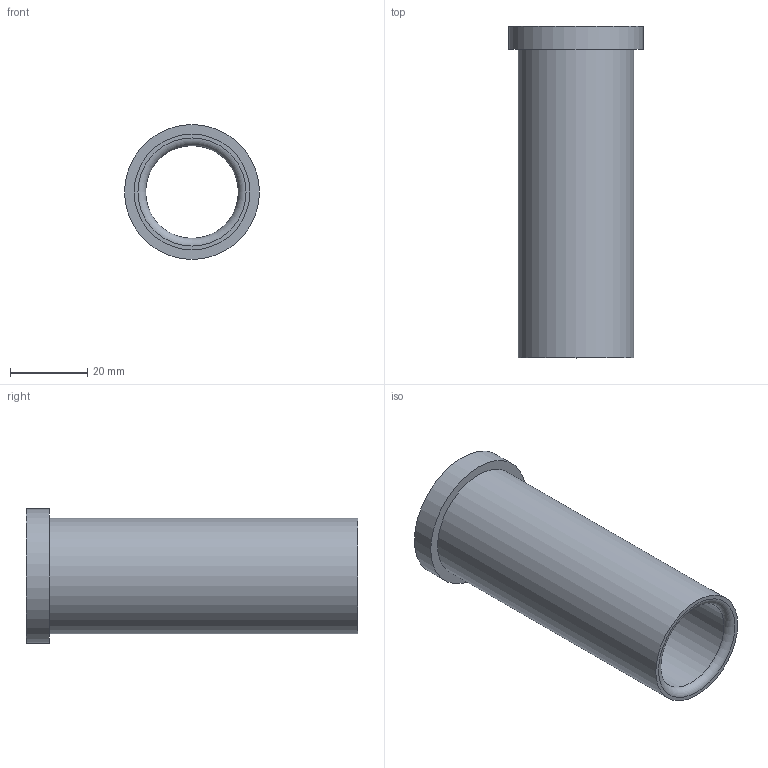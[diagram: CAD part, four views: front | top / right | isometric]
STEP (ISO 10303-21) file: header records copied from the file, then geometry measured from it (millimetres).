
FILE_DESCRIPTION(/* description */ ('STEP AP214'),/* implementation_level */ '2;1');
FILE_NAME(/* name */ '03_12_17854',/* time_stamp */ '2023-06-15T11:35:37+02:00',/* author */ ('License CC BY-ND 4.0'),/* organization */ ('CADENAS'),/* preprocessor_version */ 'ST-DEVELOPER v19.3',/* originating_system */ 'PARTsolutions',/* authorisation */ ' ');
FILE_SCHEMA (('AUTOMOTIVE_DESIGN {1 0 10303 214 3 1 1}'));
Length unit declared in the file: millimetre
Products named in the file (1): VA_Bushing_17854
Bounding box: 35 x 86 x 35 mm (x, y, z)
Volume: 22886.1 mm3; surface area: 15608.2 mm2
Topology: 1 solids, 1 shells, 10 faces, 16 edges, 10 vertices
Faces by surface type: cylinder 4, plane 4, torus 2
Full cylindrical faces by diameter (mm): 24 x1, 24.6 x1, 30 x1, 35 x1
Entity records: 302 total; most frequent: DIRECTION 42, CARTESIAN_POINT 31, AXIS2_PLACEMENT_3D 21, ORIENTED_EDGE 20, EDGE_LOOP 20, FACE_BOUND 20, EDGE_CURVE 10, VERTEX_POINT 10
